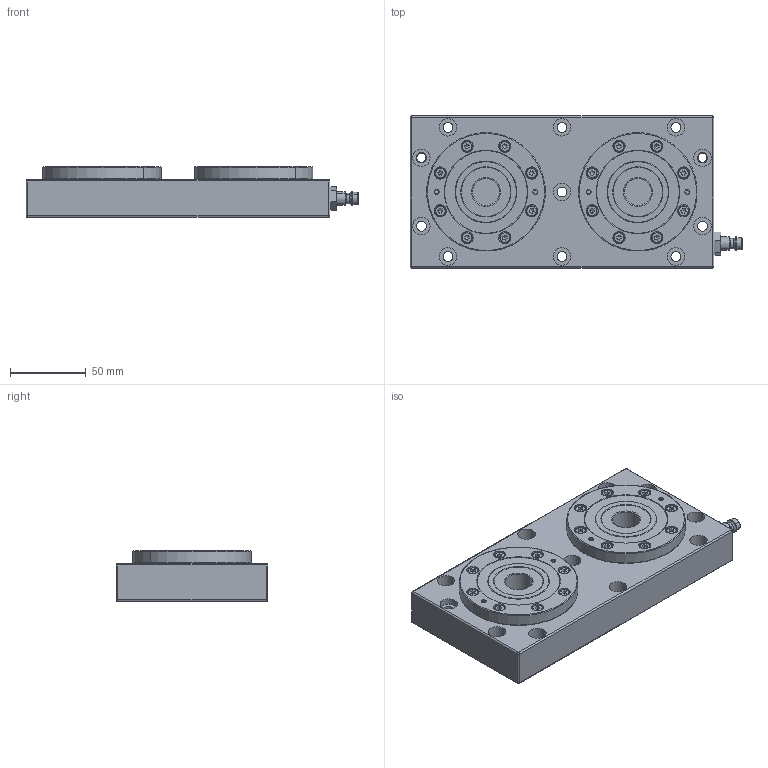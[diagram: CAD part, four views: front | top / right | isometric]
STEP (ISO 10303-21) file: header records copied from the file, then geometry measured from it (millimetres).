
FILE_DESCRIPTION (( 'STEP AP214' ), '1' );
FILE_NAME ('Q2GWB-5-P-耀倰.STEP', '2019-08-20T06:34:41', ( 'PC' ), ( 'Microsoft' ), 'SwSTEP 2.0', 'SolidWorks 2018', '' );
FILE_SCHEMA (( 'AUTOMOTIVE_DESIGN' ));
Length unit declared in the file: millimetre
Products named in the file (1): Q2GWB-5-P-耀倰
Bounding box: 218.5 x 100 x 33.5 mm (x, y, z)
Volume: 547314.1 mm3; surface area: 116124.9 mm2
Topology: 24 solids, 24 shells, 1038 faces, 2386 edges, 1412 vertices
Faces by surface type: plane 338, cylinder 324, cone 290, torus 78, sphere 8
Entity records: 40587 total; most frequent: DIRECTION 5574, CARTESIAN_POINT 4813, ORIENTED_EDGE 4612, EDGE_CURVE 2306, AXIS2_PLACEMENT_3D 2237, VERTEX_POINT 1412, CIRCLE 1198, EDGE_LOOP 1198
